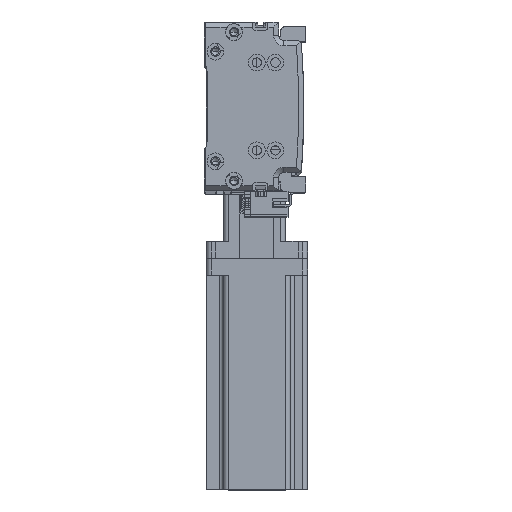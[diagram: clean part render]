
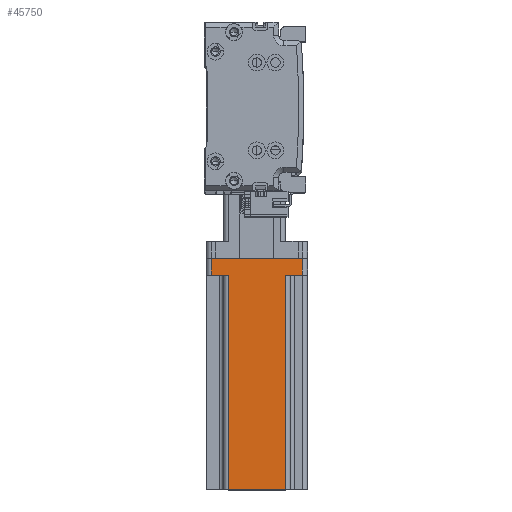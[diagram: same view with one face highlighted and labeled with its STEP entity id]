
A CAD part, top view. The second image highlights one B-rep face of the part: STEP entity #45750.
In plain terms, the highlighted planar face has unit normal (0, 0, 1) as drawn and (0, 1, 0) by its records, which use the part's own axes.
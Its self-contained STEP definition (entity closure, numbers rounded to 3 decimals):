
#70 = VERTEX_POINT ( 'NONE', #1381 ) ;
#1381 = CARTESIAN_POINT ( 'NONE',  ( 17., 30., 137. ) ) ;
#2086 = DIRECTION ( 'NONE',  ( -1., 0., 0. ) ) ;
#4640 = VECTOR ( 'NONE', #50189, 1000. ) ;
#5708 = CARTESIAN_POINT ( 'NONE',  ( 17., 30., 10. ) ) ;
#6253 = VERTEX_POINT ( 'NONE', #21626 ) ;
#6411 = CARTESIAN_POINT ( 'NONE',  ( 27., 30., 137. ) ) ;
#6522 = VERTEX_POINT ( 'NONE', #10531 ) ;
#7030 = CARTESIAN_POINT ( 'NONE',  ( 30., 30., 137. ) ) ;
#9206 = CARTESIAN_POINT ( 'NONE',  ( 20., 30., 10. ) ) ;
#10391 = LINE ( 'NONE', #9206, #4640 ) ;
#10531 = CARTESIAN_POINT ( 'NONE',  ( -17., 30., 137. ) ) ;
#11001 = PLANE ( 'NONE',  #47177 ) ;
#11182 = DIRECTION ( 'NONE',  ( 1., 0., 0. ) ) ;
#11240 = DIRECTION ( 'NONE',  ( 0., 0., 1. ) ) ;
#12008 = EDGE_CURVE ( 'NONE', #43997, #22159, #37427, .T. ) ;
#12718 = EDGE_CURVE ( 'NONE', #70, #6522, #43072, .T. ) ;
#12805 = DIRECTION ( 'NONE',  ( 0., 0., 1. ) ) ;
#14499 = ORIENTED_EDGE ( 'NONE', *, *, #12008, .T. ) ;
#14749 = CARTESIAN_POINT ( 'NONE',  ( -27., 30., 0. ) ) ;
#14890 = ORIENTED_EDGE ( 'NONE', *, *, #15766, .F. ) ;
#15766 = EDGE_CURVE ( 'NONE', #43997, #52033, #10391, .T. ) ;
#16611 = EDGE_CURVE ( 'NONE', #39016, #42122, #48633, .T. ) ;
#18813 = LINE ( 'NONE', #45941, #48827 ) ;
#21626 = CARTESIAN_POINT ( 'NONE',  ( -17., 30., 10. ) ) ;
#22159 = VERTEX_POINT ( 'NONE', #51495 ) ;
#22173 = ORIENTED_EDGE ( 'NONE', *, *, #33681, .T. ) ;
#22217 = CARTESIAN_POINT ( 'NONE',  ( 30., 30., 0. ) ) ;
#23300 = LINE ( 'NONE', #25189, #43734 ) ;
#23479 = CARTESIAN_POINT ( 'NONE',  ( 27., 30., 10. ) ) ;
#23853 = EDGE_CURVE ( 'NONE', #42122, #6253, #18813, .T. ) ;
#25130 = EDGE_CURVE ( 'NONE', #6253, #6522, #23300, .T. ) ;
#25189 = CARTESIAN_POINT ( 'NONE',  ( -17., 30., 137. ) ) ;
#25555 = DIRECTION ( 'NONE',  ( 1., 0., 0. ) ) ;
#26083 = LINE ( 'NONE', #22217, #46565 ) ;
#26316 = DIRECTION ( 'NONE',  ( -1., 0., 0. ) ) ;
#26685 = CARTESIAN_POINT ( 'NONE',  ( 30., 30., 137. ) ) ;
#26916 = EDGE_CURVE ( 'NONE', #70, #52033, #49260, .T. ) ;
#27494 = VECTOR ( 'NONE', #52008, 1000. ) ;
#27544 = CARTESIAN_POINT ( 'NONE',  ( -27., 30., 137. ) ) ;
#30926 = VECTOR ( 'NONE', #2086, 1000. ) ;
#30957 = DIRECTION ( 'NONE',  ( 0., 0., -1. ) ) ;
#31759 = ORIENTED_EDGE ( 'NONE', *, *, #12718, .F. ) ;
#33681 = EDGE_CURVE ( 'NONE', #22159, #39016, #26083, .T. ) ;
#35412 = EDGE_LOOP ( 'NONE', ( #45678, #48872, #31759, #45820, #14890, #14499, #22173, #50787 ) ) ;
#35726 = DIRECTION ( 'NONE',  ( 0., -1., 0. ) ) ;
#37427 = LINE ( 'NONE', #6411, #48328 ) ;
#37739 = VECTOR ( 'NONE', #11240, 1000. ) ;
#39016 = VERTEX_POINT ( 'NONE', #14749 ) ;
#42122 = VERTEX_POINT ( 'NONE', #44209 ) ;
#43072 = LINE ( 'NONE', #26685, #30926 ) ;
#43734 = VECTOR ( 'NONE', #12805, 1000. ) ;
#43997 = VERTEX_POINT ( 'NONE', #23479 ) ;
#44209 = CARTESIAN_POINT ( 'NONE',  ( -27., 30., 10. ) ) ;
#45678 = ORIENTED_EDGE ( 'NONE', *, *, #23853, .T. ) ;
#45750 = ADVANCED_FACE ( 'NONE', ( #49769 ), #11001, .F. ) ;
#45820 = ORIENTED_EDGE ( 'NONE', *, *, #26916, .T. ) ;
#45941 = CARTESIAN_POINT ( 'NONE',  ( -20., 30., 10. ) ) ;
#46565 = VECTOR ( 'NONE', #26316, 1000. ) ;
#47177 = AXIS2_PLACEMENT_3D ( 'NONE', #7030, #35726, #11182 ) ;
#47853 = CARTESIAN_POINT ( 'NONE',  ( 17., 30., 137. ) ) ;
#48328 = VECTOR ( 'NONE', #30957, 1000. ) ;
#48633 = LINE ( 'NONE', #27544, #37739 ) ;
#48827 = VECTOR ( 'NONE', #25555, 1000. ) ;
#48872 = ORIENTED_EDGE ( 'NONE', *, *, #25130, .T. ) ;
#49260 = LINE ( 'NONE', #47853, #27494 ) ;
#49769 = FACE_OUTER_BOUND ( 'NONE', #35412, .T. ) ;
#50189 = DIRECTION ( 'NONE',  ( -1., 0., 0. ) ) ;
#50787 = ORIENTED_EDGE ( 'NONE', *, *, #16611, .T. ) ;
#51495 = CARTESIAN_POINT ( 'NONE',  ( 27., 30., 0. ) ) ;
#52008 = DIRECTION ( 'NONE',  ( 0., 0., -1. ) ) ;
#52033 = VERTEX_POINT ( 'NONE', #5708 ) ;
